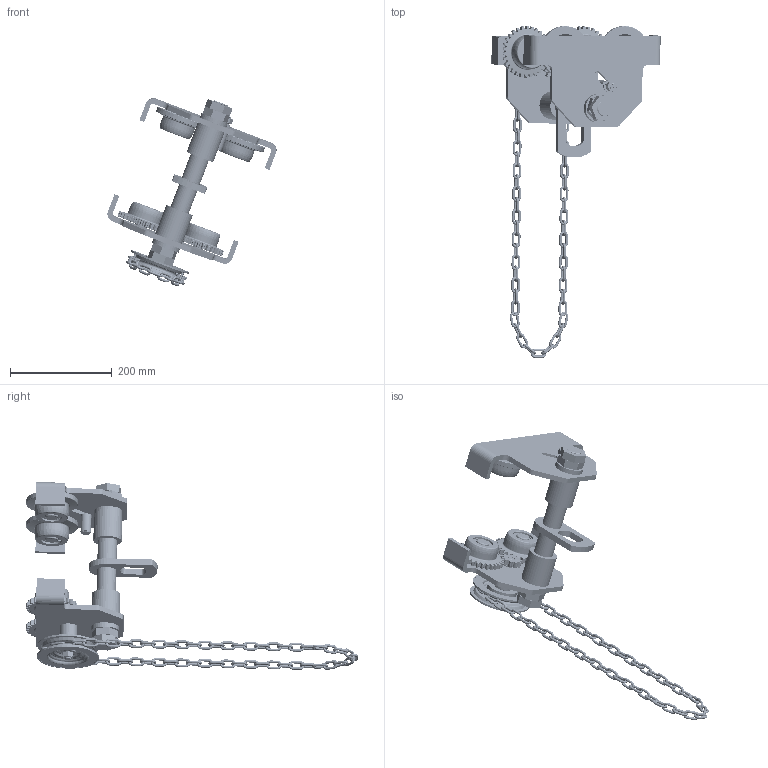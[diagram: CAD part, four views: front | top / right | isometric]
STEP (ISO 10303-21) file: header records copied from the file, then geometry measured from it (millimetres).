
FILE_DESCRIPTION (( 'STEP AP214' ), '1' );
FILE_NAME ('忒嶺苤陬.STEP', '2023-02-15T09:15:59', ( '' ), ( '' ), 'SwSTEP 2.0', 'SolidWorks 2018', '' );
FILE_SCHEMA (( 'AUTOMOTIVE_DESIGN' ));
Length unit declared in the file: millimetre
Products named in the file (25): M30; 2T衵Х啣; 孔用挡圈; 粣縐17; 游杶; 忒蟈謫; 2T酘Х啣; 粣創; 境褽杶; M12鞠褒蹟譫; 2T境褽; 裂啣; 喘謫杶芠; 忒嶺苤陬; 陬謫粣; 陬謫; 翋雄陬謫; 12平垫圈; す算粣; 忒蟈沭; す算杶; 粟菜12; 粣創裔; 平垫圈; 苤喘謫郪璃
Assembly tree (93 placements, depth 2):
  忒嶺苤陬
    裂啣
    2T境褽
    境褽杶  x2
    平垫圈  x47
    M30  x4
    2T酘Х啣
    陬謫粣  x4
    粣縐17  x4
    粣創裔  x4
    孔用挡圈  x4
    2T衵Х啣
    粣創  x4
    陬謫  x2
    す算杶
    す算粣
    12平垫圈
    M12鞠褒蹟譫  x2
    粟菜12
    翋雄陬謫  x2
    喘謫杶芠
    游杶  x2
    苤喘謫郪璃
    忒蟈沭
    忒蟈謫
Bounding box: 332.9 x 653.18 x 369.76 mm (x, y, z)
Volume: 2309363.8 mm3; surface area: 800784.4 mm2
Topology: 220 solids, 220 shells, 2837 faces, 7108 edges, 4522 vertices
Faces by surface type: cylinder 1386, plane 501, bspline 399, cone 291, torus 132, sphere 128
Entity records: 104273 total; most frequent: CARTESIAN_POINT 66456, ORIENTED_EDGE 7804, DIRECTION 7120, EDGE_CURVE 3902, AXIS2_PLACEMENT_3D 2896, VERTEX_POINT 2414, EDGE_LOOP 1688, FACE_OUTER_BOUND 1603
